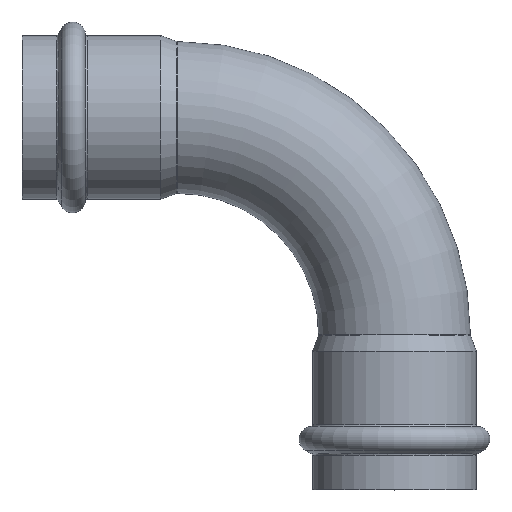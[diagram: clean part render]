
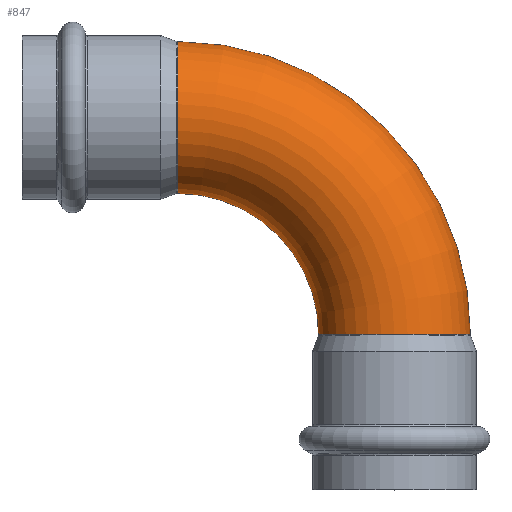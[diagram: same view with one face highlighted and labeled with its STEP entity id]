
A CAD part, top view. The second image highlights one B-rep face of the part: STEP entity #847.
In plain terms, the highlighted toroidal (fillet/blend) face has major radius 60 mm and minor radius 21 mm.
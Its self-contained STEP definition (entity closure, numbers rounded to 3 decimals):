
#820=CARTESIAN_POINT('',(0.,-60.,0.0));
#821=DIRECTION('',(0.0,0.0,-1.0));
#822=DIRECTION('',(-1.0,0.0,0.0));
#823=AXIS2_PLACEMENT_3D('',#820,#821,#822);
#824=TOROIDAL_SURFACE('',#823,60.,21.0);
#825=CARTESIAN_POINT('',(81.,-60.,0.0));
#826=VERTEX_POINT('',#825);
#827=CARTESIAN_POINT('',(60.,-60.,0.0));
#828=DIRECTION('',(0.0,-1.0,0.0));
#829=DIRECTION('',(1.0,0.0,0.0));
#830=AXIS2_PLACEMENT_3D('',#827,#828,#829);
#831=CIRCLE('',#830,21.);
#832=EDGE_CURVE('',#826,#826,#831,.T.);
#833=ORIENTED_EDGE('',*,*,#832,.F.);
#834=EDGE_LOOP('',(#833));
#835=FACE_OUTER_BOUND('',#834,.T.);
#836=CARTESIAN_POINT('',(0.,21.0,0.0));
#837=VERTEX_POINT('',#836);
#838=CARTESIAN_POINT('',(0.0,0.0,0.0));
#839=DIRECTION('',(1.0,0.0,0.0));
#840=DIRECTION('',(0.0,1.0,0.0));
#841=AXIS2_PLACEMENT_3D('',#838,#839,#840);
#842=CIRCLE('',#841,21.0);
#843=EDGE_CURVE('',#837,#837,#842,.T.);
#844=ORIENTED_EDGE('',*,*,#843,.T.);
#845=EDGE_LOOP('',(#844));
#846=FACE_BOUND('',#845,.T.);
#847=ADVANCED_FACE('',(#835,#846),#824,.T.);
